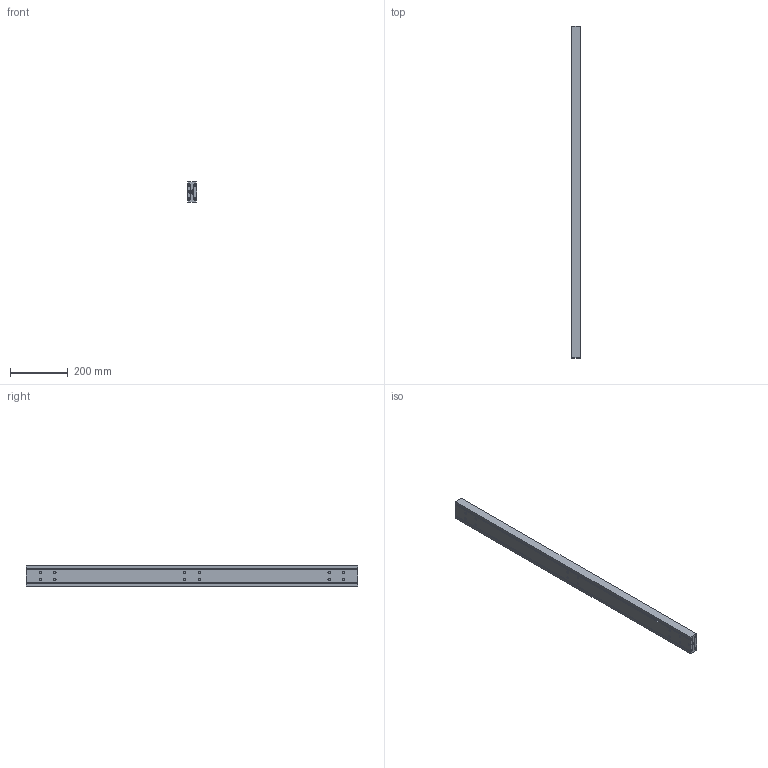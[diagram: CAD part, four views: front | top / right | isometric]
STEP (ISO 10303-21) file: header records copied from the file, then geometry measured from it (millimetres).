
FILE_DESCRIPTION(/* description */ (''),/* implementation_level */ '2;1');
FILE_NAME(/* name */ 'F:\MX-DTP70.115\MX-DTP70.115_eingefahren.stp',/* time_stamp */ '2020-12-29T11:18:15+01:00',/* author */ ('Miluxor'),/* organization */ (''),/* preprocessor_version */ 'ST-DEVELOPER v16.13',/* originating_system */ 'AutoCAD Mechanical',/* authorisation */ '');
FILE_SCHEMA (('AUTOMOTIVE_DESIGN { 1 0 10303 214 3 1 1 }'));
Length unit declared in the file: millimetre
Products named in the file (1): Product
Bounding box: 32 x 1150 x 70 mm (x, y, z)
Volume: 1965806.4 mm3; surface area: 728899.6 mm2
Topology: 81 solids, 83 shells, 210 faces, 732 edges, 536 vertices
Faces by surface type: plane 82, sphere 76, cylinder 38, bspline 8, torus 6
Full cylindrical faces by diameter (mm): 8 x24, 13 x2
Entity records: 14869 total; most frequent: CARTESIAN_POINT 8761, DIRECTION 1250, ORIENTED_EDGE 908, EDGE_CURVE 546, VERTEX_POINT 534, AXIS2_PLACEMENT_3D 519, EDGE_LOOP 446, CIRCLE 312
